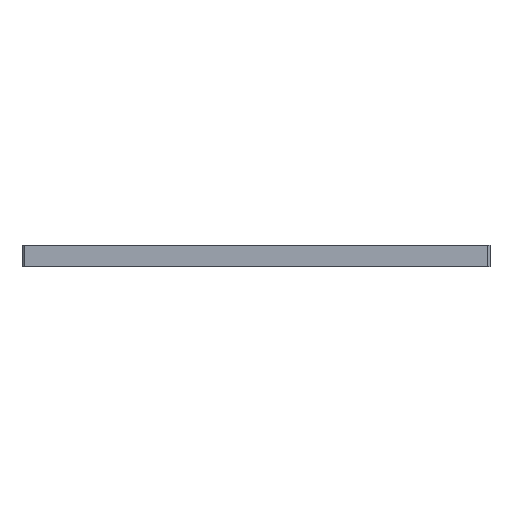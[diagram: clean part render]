
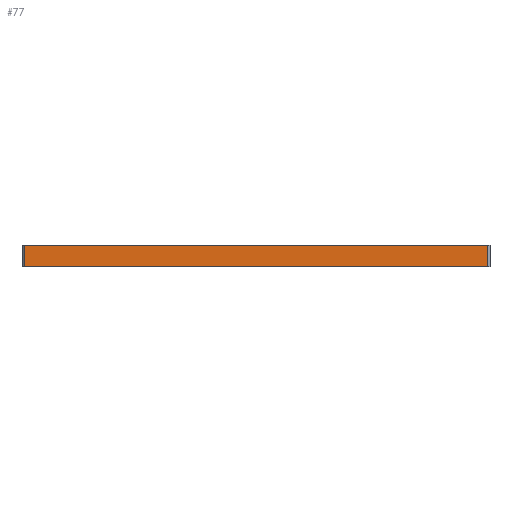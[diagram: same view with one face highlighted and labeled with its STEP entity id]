
A CAD part, left-side view. The second image highlights one B-rep face of the part: STEP entity #77.
In plain terms, the highlighted planar face has unit normal (-1, 0, 0).
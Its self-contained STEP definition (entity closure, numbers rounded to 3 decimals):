
#77=ADVANCED_FACE('',(#142),#141,.T.);
#141=PLANE('',#534);
#142=FACE_OUTER_BOUND('',#535,.T.);
#531=CARTESIAN_POINT('',(-110.,-119.,-11.));
#532=DIRECTION('',(-1.,0.,0.));
#533=DIRECTION('',(0.,0.,1.));
#534=AXIS2_PLACEMENT_3D('',#531,#532,#533);
#535=EDGE_LOOP('',(#751,#752,#753,#754));
#751=ORIENTED_EDGE('',*,*,#942,.T.);
#752=ORIENTED_EDGE('',*,*,#943,.T.);
#753=ORIENTED_EDGE('',*,*,#924,.F.);
#754=ORIENTED_EDGE('',*,*,#944,.T.);
#924=EDGE_CURVE('',#1067,#1074,#1075,.T.);
#942=EDGE_CURVE('',#1199,#1200,#1201,.T.);
#943=EDGE_CURVE('',#1200,#1074,#1207,.T.);
#944=EDGE_CURVE('',#1067,#1199,#1213,.T.);
#1067=VERTEX_POINT('',#1683);
#1074=VERTEX_POINT('',#1687);
#1075=LINE('',#1688,#1689);
#1199=VERTEX_POINT('',#1774);
#1200=VERTEX_POINT('',#1775);
#1201=LINE('',#1776,#1777);
#1207=LINE('',#1779,#1780);
#1213=LINE('',#1782,#1783);
#1683=CARTESIAN_POINT('',(-110.,109.,0.));
#1687=CARTESIAN_POINT('',(-110.,-109.,0.));
#1688=CARTESIAN_POINT('',(-110.,109.,0.));
#1689=VECTOR('',#1690,218.);
#1690=DIRECTION('',(0.,-1.,0.));
#1774=CARTESIAN_POINT('',(-110.,109.,-10.));
#1775=CARTESIAN_POINT('',(-110.,-109.,-10.));
#1776=CARTESIAN_POINT('',(-110.,109.,-10.));
#1777=VECTOR('',#1778,218.);
#1778=DIRECTION('',(0.,-1.,0.));
#1779=CARTESIAN_POINT('',(-110.,-109.,-10.));
#1780=VECTOR('',#1781,10.);
#1781=DIRECTION('',(0.,0.,1.));
#1782=CARTESIAN_POINT('',(-110.,109.,0.));
#1783=VECTOR('',#1784,10.);
#1784=DIRECTION('',(0.,0.,-1.));
